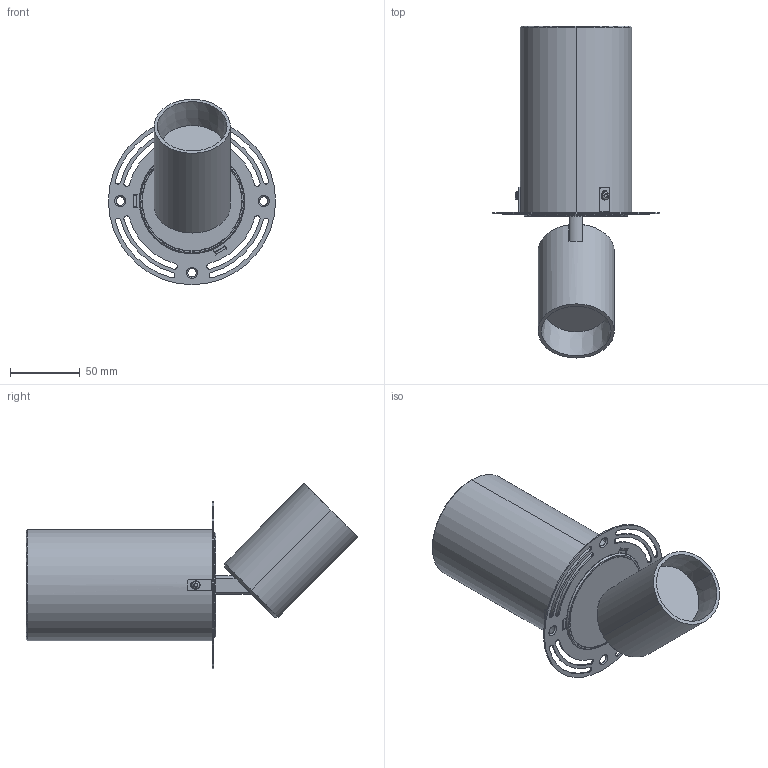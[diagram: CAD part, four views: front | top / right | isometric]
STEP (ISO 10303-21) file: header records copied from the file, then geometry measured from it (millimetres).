
FILE_DESCRIPTION (( 'STEP AP203' ), '1' );
FILE_NAME ('Saturno In&Out F - per BIM.STEP', '2024-02-02T14:27:29', ( '' ), ( '' ), 'SwSTEP 2.0', 'SolidWorks 2023', '' );
FILE_SCHEMA (( 'CONFIG_CONTROL_DESIGN' ));
Length unit declared in the file: millimetre
Products named in the file (9): 105273--; Saturno In&Out F - per BIM; Cilindro scorrimento SATURNO IN&OUT; Vite M3x4 TBEI; 105271--_SENZA TASSELLI; Rondella dentellata M3; Parte37^Saturno In&Out F - m - per BIM; 105274--REV A; 103931--REV G
Assembly tree (12 placements, depth 3):
  Saturno In&Out F - per BIM
    103931--REV G
    105271--_SENZA TASSELLI
      105273--
      105274--REV A
      Vite M3x4 TBEI  x3
      Rondella dentellata M3  x3
    Parte37^Saturno In&Out F - m - per BIM
    Cilindro scorrimento SATURNO IN&OUT
Bounding box: 120 x 238.25 x 133.05 mm (x, y, z)
Volume: 353471 mm3; surface area: 125373.1 mm2
Topology: 11 solids, 11 shells, 436 faces, 1147 edges, 739 vertices
Faces by surface type: plane 254, cylinder 147, cone 27, torus 8
Entity records: 10692 total; most frequent: CARTESIAN_POINT 2113, DIRECTION 1645, ORIENTED_EDGE 1546, EDGE_CURVE 773, AXIS2_PLACEMENT_3D 625, VERTEX_POINT 499, LINE 395, VECTOR 395
